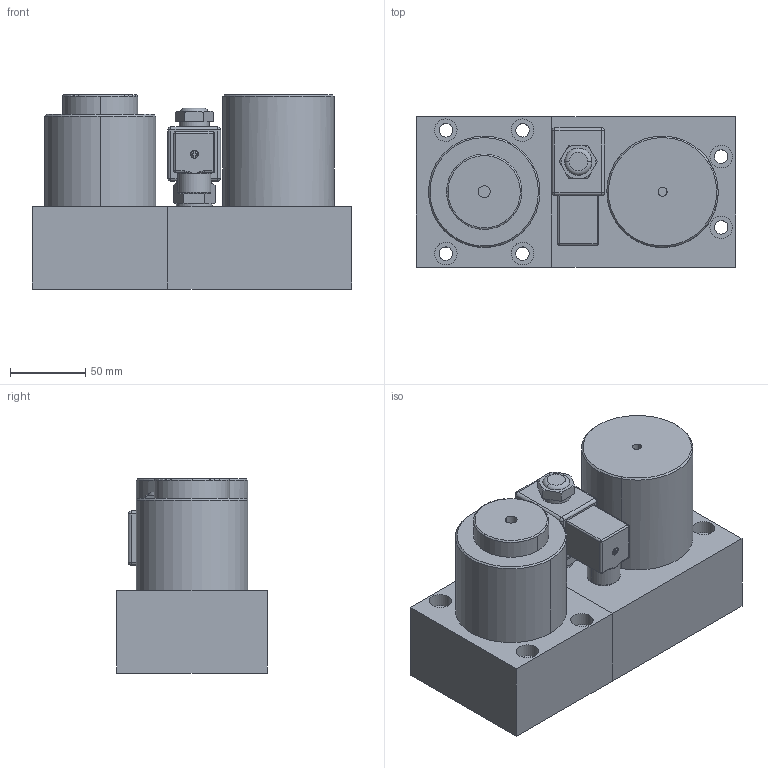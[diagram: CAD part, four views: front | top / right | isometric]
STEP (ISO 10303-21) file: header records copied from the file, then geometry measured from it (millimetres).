
FILE_DESCRIPTION(('CATIA V5 STEP Exchange'),'2;1');
FILE_NAME('W:\LIBRERIA TECAPRES®\DIBUJOS STRACK 2012\TPMC 2015\TPMC 3000\TPMCA 3000x12.stp','2015-11-03T16:18:47+00:00',('none'),('none'),'CATIA Version 5 Release 17 (IN-10)','CATIA V5 STEP AP203','none');
FILE_SCHEMA(('CONFIG_CONTROL_DESIGN'));
Length unit declared in the file: millimetre
Products named in the file (1): TPMCA 3000x12
Bounding box: 212 x 100 x 129 mm (x, y, z)
Volume: 1842172.4 mm3; surface area: 167515.3 mm2
Topology: 6 solids, 6 shells, 177 faces, 408 edges, 244 vertices
Faces by surface type: plane 67, cylinder 63, revolution 18, sphere 12, torus 9, cone 6, bspline 2
Entity records: 5421 total; most frequent: CARTESIAN_POINT 1727, ORIENTED_EDGE 788, DIRECTION 596, EDGE_CURVE 394, AXIS2_PLACEMENT_3D 288, VERTEX_POINT 244, EDGE_LOOP 204, ADVANCED_FACE 177
